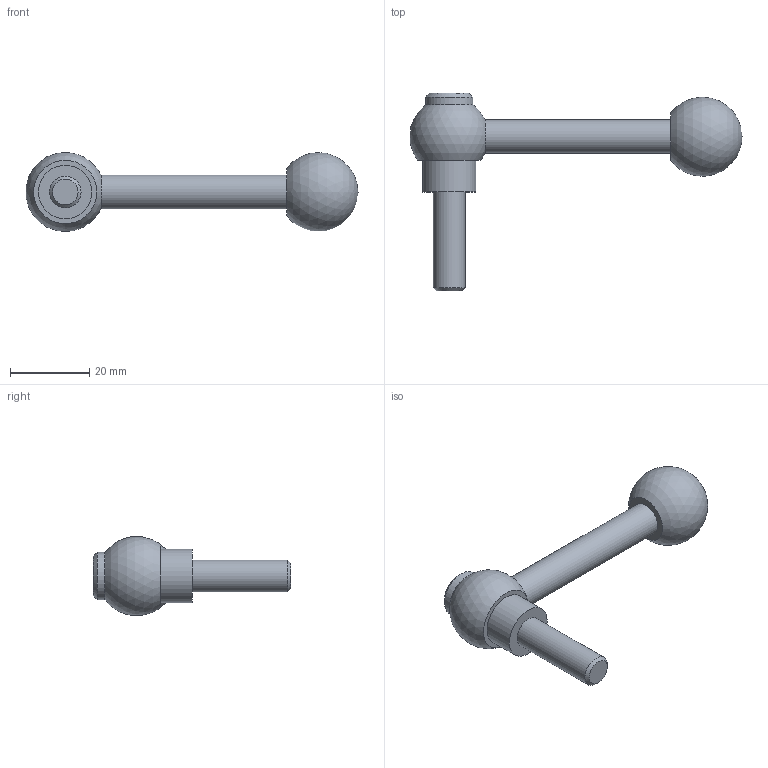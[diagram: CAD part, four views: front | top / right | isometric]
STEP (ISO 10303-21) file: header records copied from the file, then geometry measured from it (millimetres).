
FILE_DESCRIPTION( ( 'STEP AP203' ), '1' );
FILE_NAME( 'C:/Temp/Ganter_Step_05_03_2020/data/2_1/gn_6337_3/gn_6337_3_ms/gn_6337_3_ms_m/Adjustable clamping lever with bolt GN 6337.3-20-M8-25-M.stp', '2020-03-05T11:41:13', ( 'License CC BY-ND 4.0' ), ( 'CADENAS' ), ' ', 'PARTsolutions', ' ' );
FILE_SCHEMA( ( 'CONFIG_CONTROL_DESIGN' ) );
Length unit declared in the file: millimetre
Products named in the file (1): _Adjustable clamping lever with bolt GN 6337.3-20-M8-25-M
Bounding box: 83.92 x 50 x 19.99 mm (x, y, z)
Volume: 13060.4 mm3; surface area: 4620.5 mm2
Topology: 1 solids, 1 shells, 13 faces, 23 edges, 15 vertices
Faces by surface type: plane 5, cylinder 4, cone 2, sphere 2
Full cylindrical faces by diameter (mm): 8 x1, 8.5 x1, 12 x1, 13.5 x1
Entity records: 302 total; most frequent: DIRECTION 52, CARTESIAN_POINT 39, AXIS2_PLACEMENT_3D 26, EDGE_LOOP 24, ORIENTED_EDGE 24, FACE_OUTER_BOUND 18, ADVANCED_FACE 13, VERTEX_POINT 13
